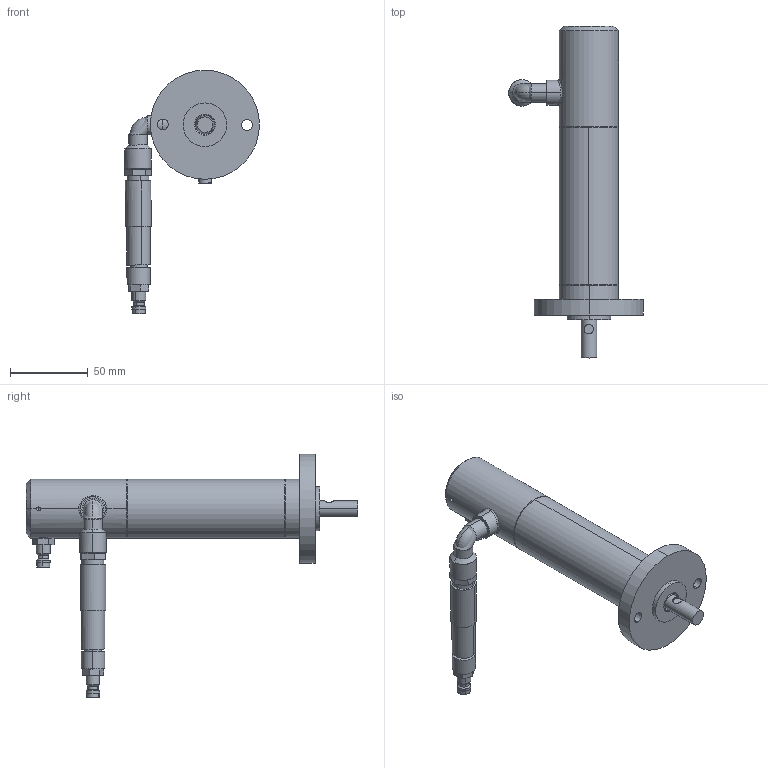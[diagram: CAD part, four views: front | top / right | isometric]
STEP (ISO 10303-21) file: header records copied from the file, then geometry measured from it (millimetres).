
FILE_DESCRIPTION (( 'STEP AP214' ), '1' );
FILE_NAME ('PMR12GA.STEP', '2019-03-13T13:01:22', ( '' ), ( '' ), 'SwSTEP 2.0', 'SolidWorks 2018', '' );
FILE_SCHEMA (( 'AUTOMOTIVE_DESIGN' ));
Length unit declared in the file: millimetre
Products named in the file (12): PMR12GA; Flansch Serie PMR; Rändelschraube GA; Schnellkupplung; Ventil; Rändelschraube; Winkel; Kopie von Distanzring PLR 11^PMR12GA; Kopie von Deckel PLR 11^PMR12GA; Kopie von Stator PLR 11^PMR12GA; Kopie von Rotor PLR 11^PMR12GA; Kopie von Motorblock PLR 11^PMR12GA
Assembly tree (12 placements, depth 3):
  PMR12GA
    Kopie von Motorblock PLR 11^PMR12GA
    Kopie von Rotor PLR 11^PMR12GA
    Kopie von Stator PLR 11^PMR12GA
    Kopie von Deckel PLR 11^PMR12GA
    Kopie von Distanzring PLR 11^PMR12GA
    Winkel
    Rändelschraube GA
      Rändelschraube
      Ventil
      Schnellkupplung
    Schnellkupplung
    Flansch Serie PMR
Bounding box: 86.56 x 213.01 x 156.33 mm (x, y, z)
Volume: 243948.1 mm3; surface area: 81402.1 mm2
Topology: 11 solids, 11 shells, 272 faces, 568 edges, 358 vertices
Faces by surface type: cylinder 140, plane 88, cone 32, torus 10, bspline 2
Entity records: 7922 total; most frequent: CARTESIAN_POINT 1851, DIRECTION 1260, ORIENTED_EDGE 992, AXIS2_PLACEMENT_3D 535, EDGE_CURVE 496, VERTEX_POINT 316, EDGE_LOOP 296, CIRCLE 280
